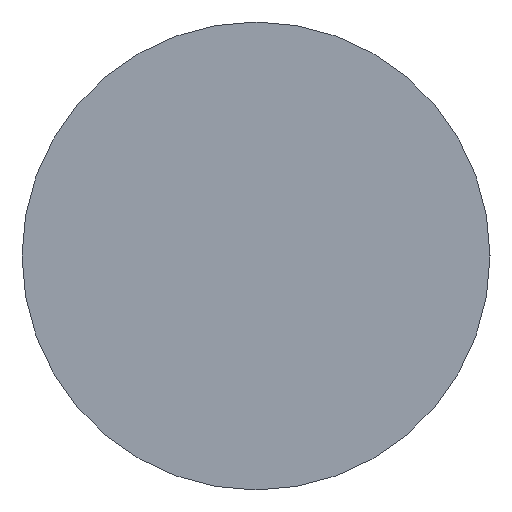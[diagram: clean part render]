
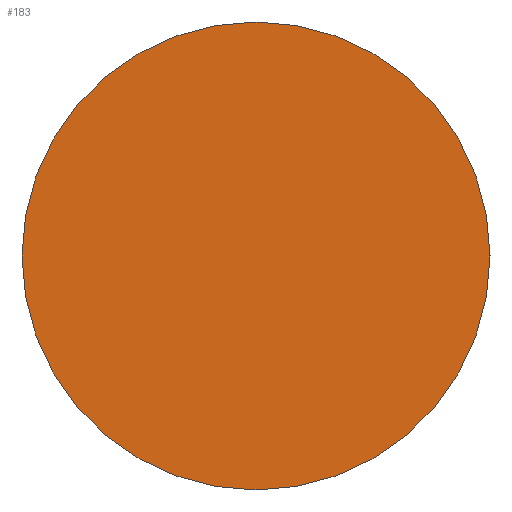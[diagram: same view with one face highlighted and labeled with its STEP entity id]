
A CAD part, left-side view. The second image highlights one B-rep face of the part: STEP entity #183.
In plain terms, the highlighted planar face has unit normal (-1, 0, 0).
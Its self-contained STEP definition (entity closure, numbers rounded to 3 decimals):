
#2 = VERTEX_POINT ( 'NONE', #37 ) ;
#10 = DIRECTION ( 'NONE',  ( -1., 0., 0. ) ) ;
#20 = AXIS2_PLACEMENT_3D ( 'NONE', #146, #270, #54 ) ;
#23 = FACE_OUTER_BOUND ( 'NONE', #81, .T. ) ;
#28 = DIRECTION ( 'NONE',  ( 0., 1., 0. ) ) ;
#37 = CARTESIAN_POINT ( 'NONE',  ( 0., 7., 0. ) ) ;
#40 = CIRCLE ( 'NONE', #148, 7. ) ;
#50 = CARTESIAN_POINT ( 'NONE',  ( 0., 0., 0. ) ) ;
#54 = DIRECTION ( 'NONE',  ( 0., 1., 0. ) ) ;
#68 = CIRCLE ( 'NONE', #20, 7. ) ;
#81 = EDGE_LOOP ( 'NONE', ( #254, #160 ) ) ;
#111 = VERTEX_POINT ( 'NONE', #242 ) ;
#146 = CARTESIAN_POINT ( 'NONE',  ( 0., 0., 0. ) ) ;
#148 = AXIS2_PLACEMENT_3D ( 'NONE', #50, #163, #28 ) ;
#160 = ORIENTED_EDGE ( 'NONE', *, *, #267, .F. ) ;
#163 = DIRECTION ( 'NONE',  ( 1., 0., 0. ) ) ;
#166 = EDGE_CURVE ( 'NONE', #2, #111, #68, .T. ) ;
#167 = CARTESIAN_POINT ( 'NONE',  ( 0., 0., 0. ) ) ;
#183 = ADVANCED_FACE ( 'NONE', ( #23 ), #192, .T. ) ;
#192 = PLANE ( 'NONE',  #256 ) ;
#230 = DIRECTION ( 'NONE',  ( 0., -1., 0. ) ) ;
#242 = CARTESIAN_POINT ( 'NONE',  ( 0., -7., 0. ) ) ;
#254 = ORIENTED_EDGE ( 'NONE', *, *, #166, .F. ) ;
#256 = AXIS2_PLACEMENT_3D ( 'NONE', #167, #10, #230 ) ;
#267 = EDGE_CURVE ( 'NONE', #111, #2, #40, .T. ) ;
#270 = DIRECTION ( 'NONE',  ( 1., 0., 0. ) ) ;
